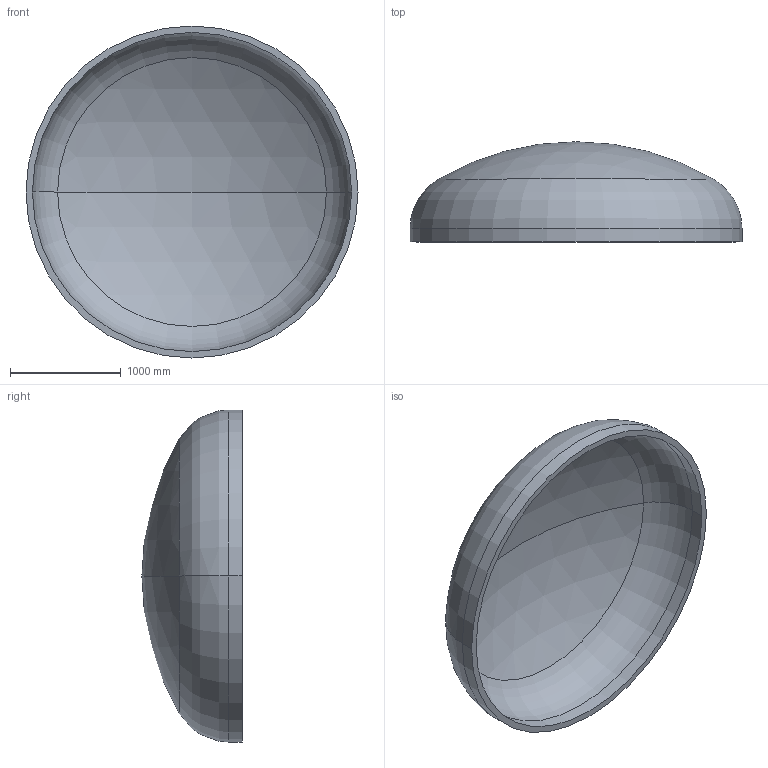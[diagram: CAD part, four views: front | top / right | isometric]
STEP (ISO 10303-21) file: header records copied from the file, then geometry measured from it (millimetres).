
FILE_DESCRIPTION (( 'STEP AP203' ), '1' );
FILE_NAME ('DIN 28013 Korbbogenform_-_Boden DIN 28013 - 3000 x 120 - I - s=58.step', '2016-07-01T17:54:19', ( '' ), ( '' ), 'SwSTEP 2.0', 'SolidWorks 2013', '' );
FILE_SCHEMA (( 'CONFIG_CONTROL_DESIGN' ));
Length unit declared in the file: millimetre
Products named in the file (1): DIN 28013 Korbbogenform_-_Boden DIN 28013 - 3000 x 120 - I - s=58
Bounding box: 3000 x 904.9 x 3000 mm (x, y, z)
Volume: 617389903.5 mm3; surface area: 21832414.1 mm2
Topology: 1 solids, 1 shells, 13 faces, 24 edges, 14 vertices
Faces by surface type: torus 4, cylinder 4, sphere 4, plane 1
Entity records: 407 total; most frequent: DIRECTION 72, CARTESIAN_POINT 52, ORIENTED_EDGE 48, AXIS2_PLACEMENT_3D 34, EDGE_CURVE 24, CIRCLE 20, EDGE_LOOP 14, VERTEX_POINT 14
